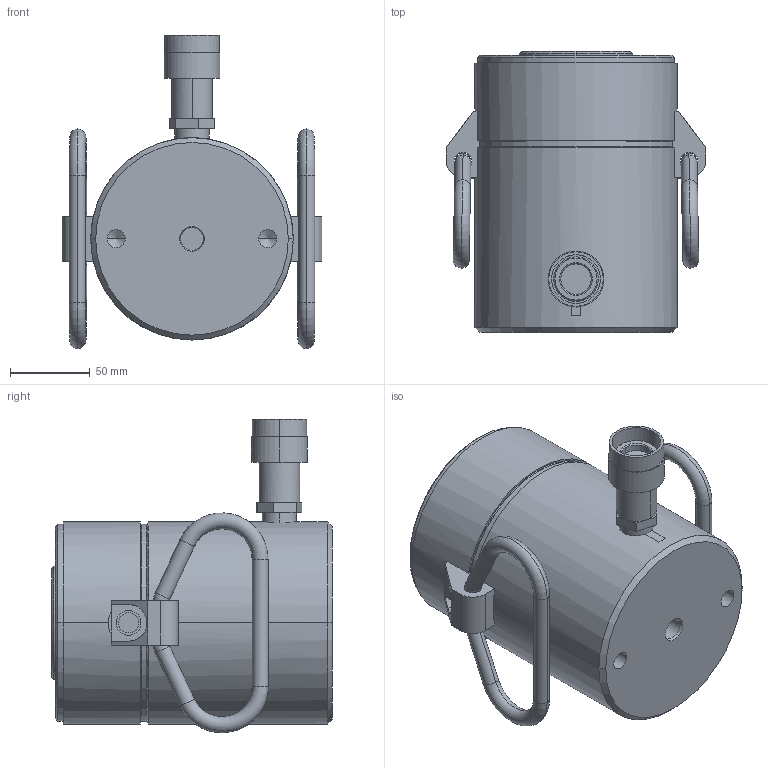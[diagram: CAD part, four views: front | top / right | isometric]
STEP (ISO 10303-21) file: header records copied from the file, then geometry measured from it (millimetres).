
FILE_DESCRIPTION((''),'2;1');
FILE_NAME('DD6439900_SW0001_1_ASM','2021-03-09T13:54:51',('mike.ward'),(''),'CREO PARAMETRIC BY PTC INC, 2018400','CREO PARAMETRIC BY PTC INC, 2018400','');
FILE_SCHEMA(('CONFIG_CONTROL_DESIGN'));
Length unit declared in the file: inch
Products named in the file (4): DD6439900_SW0001_1_1; DD6439900_SW0001_1_2; DD6439900_SW0001_1_3; DD6439900_SW0001_1_ASM
Assembly tree (3 placements, depth 2):
  DD6439900_SW0001_1_ASM
    DD6439900_SW0001_1_1
    DD6439900_SW0001_1_2
    DD6439900_SW0001_1_3
Bounding box: 162.9 x 176.28 x 196.73 mm (x, y, z)
Volume: 2282680.1 mm3; surface area: 153183.7 mm2
Topology: 3 solids, 5 shells, 263 faces, 633 edges, 397 vertices
Faces by surface type: cylinder 101, plane 96, torus 34, cone 32
Entity records: 8081 total; most frequent: CARTESIAN_POINT 1682, DIRECTION 1429, ORIENTED_EDGE 1246, EDGE_CURVE 623, AXIS2_PLACEMENT_3D 582, VERTEX_POINT 397, CIRCLE 312, EDGE_LOOP 300
